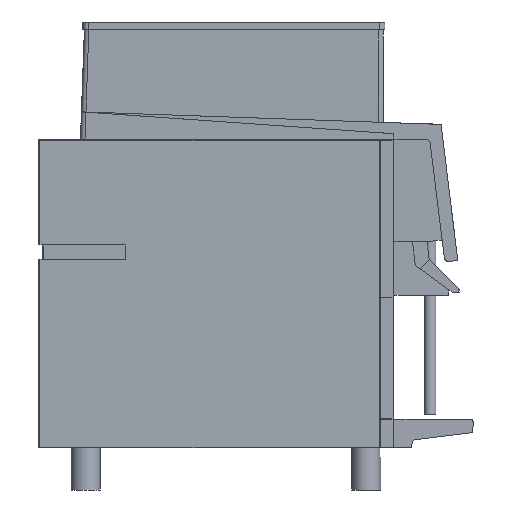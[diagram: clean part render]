
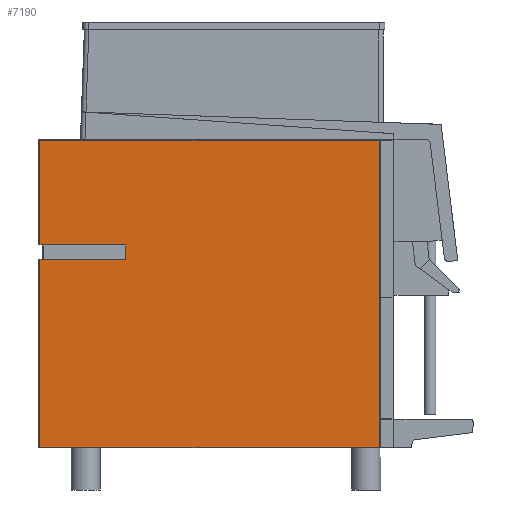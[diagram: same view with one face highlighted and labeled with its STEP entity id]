
A CAD part, left-side view. The second image highlights one B-rep face of the part: STEP entity #7190.
In plain terms, the highlighted planar face has unit normal (-1, 0, 0).
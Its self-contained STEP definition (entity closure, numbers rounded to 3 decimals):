
#707=ORIENTED_EDGE('',*,*,#2106,.F.);
#708=ORIENTED_EDGE('',*,*,#2166,.T.);
#709=ORIENTED_EDGE('',*,*,#2167,.T.);
#710=ORIENTED_EDGE('',*,*,#2168,.T.);
#711=ORIENTED_EDGE('',*,*,#2169,.F.);
#712=ORIENTED_EDGE('',*,*,#2170,.F.);
#713=ORIENTED_EDGE('',*,*,#2171,.F.);
#714=ORIENTED_EDGE('',*,*,#2172,.T.);
#715=ORIENTED_EDGE('',*,*,#2173,.T.);
#716=ORIENTED_EDGE('',*,*,#2174,.T.);
#2106=EDGE_CURVE('',#2829,#2830,#3297,.T.);
#2166=EDGE_CURVE('',#2829,#2867,#3348,.T.);
#2167=EDGE_CURVE('',#2867,#2868,#3349,.F.);
#2168=EDGE_CURVE('',#2868,#2869,#3350,.F.);
#2169=EDGE_CURVE('',#2870,#2869,#3351,.T.);
#2170=EDGE_CURVE('',#2871,#2870,#3352,.T.);
#2171=EDGE_CURVE('',#2872,#2871,#3353,.T.);
#2172=EDGE_CURVE('',#2872,#2873,#3354,.T.);
#2173=EDGE_CURVE('',#2873,#2874,#3355,.T.);
#2174=EDGE_CURVE('',#2874,#2830,#3356,.F.);
#2829=VERTEX_POINT('',#9951);
#2830=VERTEX_POINT('',#9953);
#2867=VERTEX_POINT('',#10067);
#2868=VERTEX_POINT('',#10069);
#2869=VERTEX_POINT('',#10071);
#2870=VERTEX_POINT('',#10073);
#2871=VERTEX_POINT('',#10075);
#2872=VERTEX_POINT('',#10077);
#2873=VERTEX_POINT('',#10079);
#2874=VERTEX_POINT('',#10081);
#3297=LINE('',#9952,#3899);
#3348=LINE('',#10066,#3950);
#3349=LINE('',#10068,#3951);
#3350=LINE('',#10070,#3952);
#3351=LINE('',#10072,#3953);
#3352=LINE('',#10074,#3954);
#3353=LINE('',#10076,#3955);
#3354=LINE('',#10078,#3956);
#3355=LINE('',#10080,#3957);
#3356=LINE('',#10082,#3958);
#3899=VECTOR('',#8316,1000.);
#3950=VECTOR('',#8419,1000.);
#3951=VECTOR('',#8420,1000.);
#3952=VECTOR('',#8421,1000.);
#3953=VECTOR('',#8422,1000.);
#3954=VECTOR('',#8423,1000.);
#3955=VECTOR('',#8424,1000.);
#3956=VECTOR('',#8425,1000.);
#3957=VECTOR('',#8426,1000.);
#3958=VECTOR('',#8427,1000.);
#4353=EDGE_LOOP('',(#707,#708,#709,#710,#711,#712,#713,#714,#715,#716));
#4664=FACE_BOUND('',#4353,.T.);
#4954=PLANE('',#7561);
#7190=ADVANCED_FACE('',(#4664),#4954,.F.);
#7561=AXIS2_PLACEMENT_3D('',#10065,#8417,#8418);
#8316=DIRECTION('',(0.,1.,0.));
#8417=DIRECTION('',(1.,0.,0.));
#8418=DIRECTION('',(0.,1.,0.));
#8419=DIRECTION('',(0.,0.,1.));
#8420=DIRECTION('',(0.,-1.,0.));
#8421=DIRECTION('',(0.,0.,1.));
#8422=DIRECTION('',(0.,1.,0.));
#8423=DIRECTION('',(0.,1.,0.));
#8424=DIRECTION('',(0.,0.,1.));
#8425=DIRECTION('',(0.,1.,0.));
#8426=DIRECTION('',(0.,1.,0.));
#8427=DIRECTION('',(0.,0.,1.));
#9951=CARTESIAN_POINT('',(-160.,-470.,0.));
#9952=CARTESIAN_POINT('',(-160.,-490.,0.));
#9953=CARTESIAN_POINT('',(-160.,-1.2,0.));
#10065=CARTESIAN_POINT('',(-160.,0.,0.));
#10066=CARTESIAN_POINT('',(-160.,-470.,420.5));
#10067=CARTESIAN_POINT('',(-160.,-470.,424.8));
#10068=CARTESIAN_POINT('',(-160.,0.,424.8));
#10069=CARTESIAN_POINT('',(-160.,-1.2,424.8));
#10070=CARTESIAN_POINT('',(-160.,-1.2,0.));
#10071=CARTESIAN_POINT('',(-160.,-1.2,280.));
#10072=CARTESIAN_POINT('',(-160.,-5.,280.));
#10073=CARTESIAN_POINT('',(-160.,-5.133,280.));
#10074=CARTESIAN_POINT('',(-160.,-120.,280.));
#10075=CARTESIAN_POINT('',(-160.,-120.,280.));
#10076=CARTESIAN_POINT('',(-160.,-120.,260.));
#10077=CARTESIAN_POINT('',(-160.,-120.,260.));
#10078=CARTESIAN_POINT('',(-160.,-120.,260.));
#10079=CARTESIAN_POINT('',(-160.,-5.133,260.));
#10080=CARTESIAN_POINT('',(-160.,-5.,260.));
#10081=CARTESIAN_POINT('',(-160.,-1.2,260.));
#10082=CARTESIAN_POINT('',(-160.,-1.2,0.));
